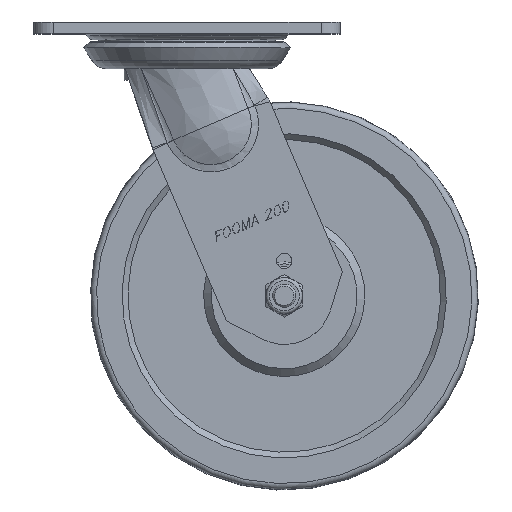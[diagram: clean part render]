
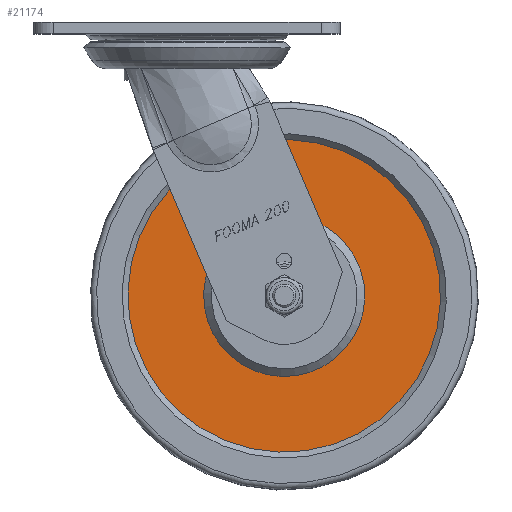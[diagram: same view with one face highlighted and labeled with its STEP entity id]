
A CAD part, top view. The second image highlights one B-rep face of the part: STEP entity #21174.
In plain terms, the highlighted planar face has unit normal (0, 0, 1).
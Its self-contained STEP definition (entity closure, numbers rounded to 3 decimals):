
#5548=FACE_BOUND('',#6829,.T.);
#5697=FACE_OUTER_BOUND('',#6828,.T.);
#6828=EDGE_LOOP('',(#13421));
#6829=EDGE_LOOP('',(#13422));
#8070=CIRCLE('',#22344,80.5);
#8071=CIRCLE('',#22346,41.5);
#8436=VERTEX_POINT('',#29254);
#8437=VERTEX_POINT('',#29257);
#10424=EDGE_CURVE('',#8436,#8436,#8070,.T.);
#10425=EDGE_CURVE('',#8437,#8437,#8071,.T.);
#13421=ORIENTED_EDGE('',*,*,#10424,.T.);
#13422=ORIENTED_EDGE('',*,*,#10425,.F.);
#19104=PLANE('',#22345);
#21174=ADVANCED_FACE('',(#5697,#5548),#19104,.T.);
#22344=AXIS2_PLACEMENT_3D('',#29255,#23834,#23835);
#22345=AXIS2_PLACEMENT_3D('',#29256,#23836,#23837);
#22346=AXIS2_PLACEMENT_3D('',#29258,#23838,#23839);
#23834=DIRECTION('center_axis',(0.,0.,
1.));
#23835=DIRECTION('ref_axis',(0.999,-0.038,0.));
#23836=DIRECTION('center_axis',(0.,0.,
1.));
#23837=DIRECTION('ref_axis',(0.999,-0.038,0.));
#23838=DIRECTION('center_axis',(0.,0.,
1.));
#23839=DIRECTION('ref_axis',(0.999,-0.038,0.));
#29254=CARTESIAN_POINT('',(55.673,-51.167,21.));
#29255=CARTESIAN_POINT('Origin',(52.63,-131.609,21.));
#29256=CARTESIAN_POINT('Origin',(54.199,-90.139,21.));
#29257=CARTESIAN_POINT('',(54.199,-90.139,21.));
#29258=CARTESIAN_POINT('Origin',(52.63,-131.609,21.));
